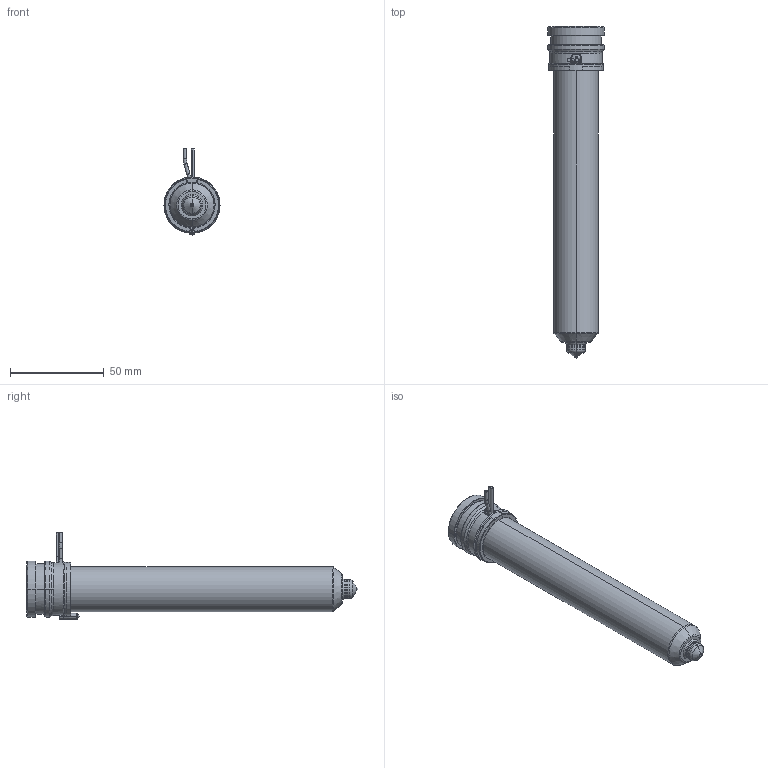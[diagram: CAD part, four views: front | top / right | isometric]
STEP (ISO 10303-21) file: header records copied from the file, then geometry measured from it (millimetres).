
FILE_DESCRIPTION((''),'2;1');
FILE_NAME('MPN-10-29-TX10-156-A','2026-02-11T11:17:42',('UVRWS'),('Thermoplay S.p.A.'),'CREO PARAMETRIC BY PTC INC, 2023494','CREO PARAMETRIC BY PTC INC, 2023494','');
FILE_SCHEMA(('CONFIG_CONTROL_DESIGN','SHAPE_APPEARANCE_LAYERS_GROUPS'));
Length unit declared in the file: millimetre
Products named in the file (1): MPN-10-29-TX10-156-A
Bounding box: 30 x 177.5 x 46 mm (x, y, z)
Volume: 54978 mm3; surface area: 55480 mm2
Topology: 2 solids, 3 shells, 551 faces, 1455 edges, 899 vertices
Faces by surface type: cylinder 180, plane 143, bspline 79, torus 68, cone 66, sphere 11, extrusion 4
Entity records: 31347 total; most frequent: CARTESIAN_POINT 14991, ORIENTED_EDGE 2894, DIRECTION 2641, EDGE_CURVE 1447, AXIS2_PLACEMENT_3D 1045, VERTEX_POINT 899, EDGE_LOOP 580, CIRCLE 576
